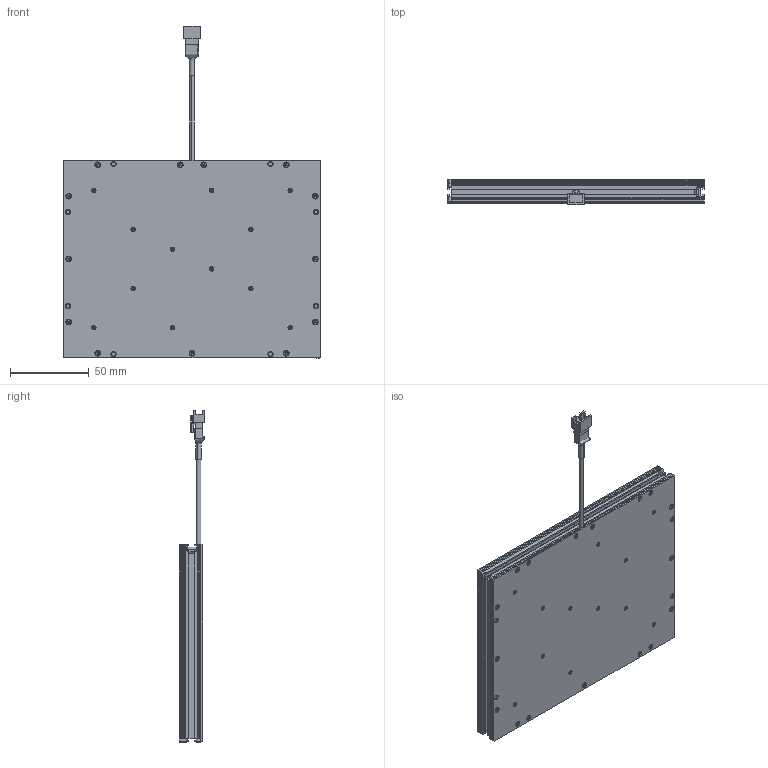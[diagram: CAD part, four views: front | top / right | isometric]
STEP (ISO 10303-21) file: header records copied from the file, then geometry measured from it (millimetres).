
FILE_DESCRIPTION (( 'STEP AP214' ), '1' );
FILE_NAME ('TMDF3005D101B_VDF-150113.STEP', '2023-05-02T06:16:59', ( '' ), ( '' ), 'SwSTEP 2.0', 'SolidWorks 2018', '' );
FILE_SCHEMA (( 'AUTOMOTIVE_DESIGN' ));
Length unit declared in the file: millimetre
Products named in the file (1): TMDF3005D101B_VDF-150113
Bounding box: 163 x 16.55 x 211.36 mm (x, y, z)
Surface area: 90774.8 mm2 (no closed solid volume)
Topology: 0 solids, 173 shells, 1455 faces, 5031 edges, 3692 vertices
Faces by surface type: plane 941, cylinder 325, bspline 119, cone 70
Entity records: 71587 total; most frequent: CARTESIAN_POINT 13982, DIRECTION 7984, ORIENTED_EDGE 7680, EDGE_CURVE 5031, VERTEX_POINT 3692, VECTOR 3682, LINE 3682, AXIS2_PLACEMENT_3D 2151
